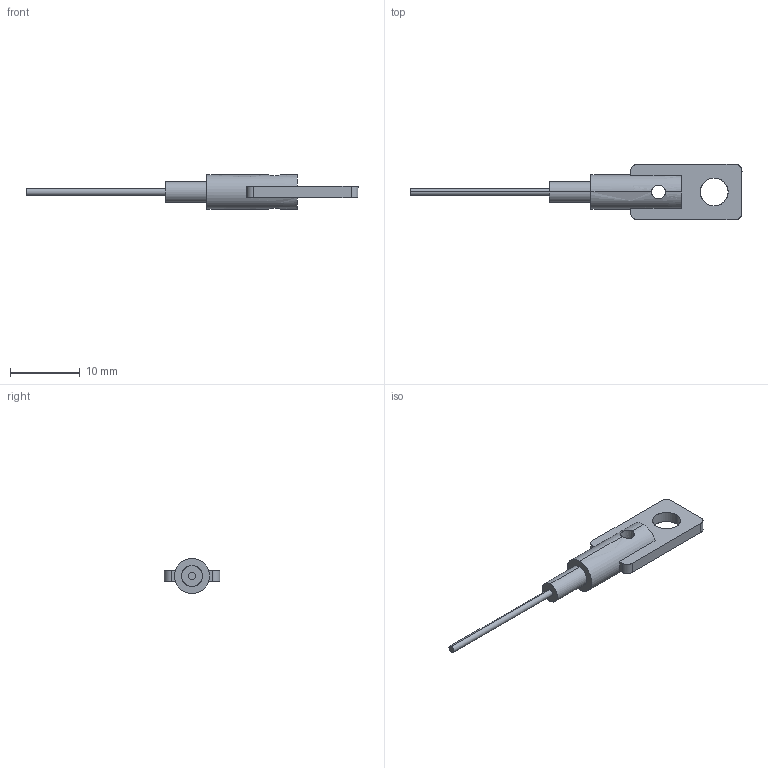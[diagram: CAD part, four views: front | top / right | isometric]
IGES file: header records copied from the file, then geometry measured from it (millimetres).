
Start section: SolidWorks IGES file using analytic representation for surfaces
Bounding box: 47.7 x 8 x 5 mm (x, y, z)
Surface area: 601.2 mm2 (no closed solid volume)
Topology: 0 solids, 0 shells, 26 faces, 508 edges, 508 vertices
Faces by surface type: revolution 14, bspline 12
